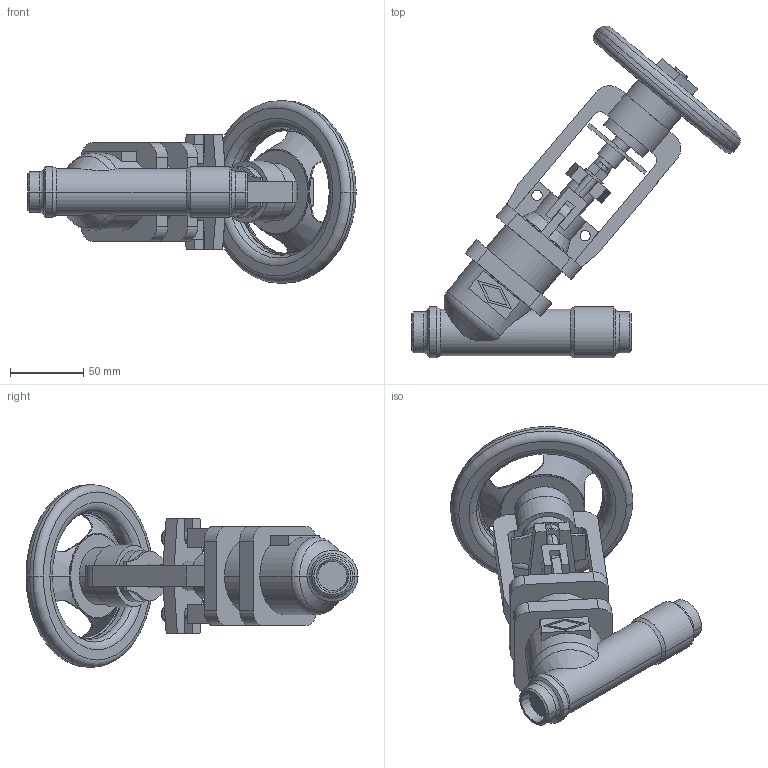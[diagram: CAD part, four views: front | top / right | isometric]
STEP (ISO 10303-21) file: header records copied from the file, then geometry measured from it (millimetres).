
FILE_DESCRIPTION(('OneSpaceDesigner STEP Export'),'2;1');
FILE_NAME('c000004347.stp','2010-05-10T10:56:23',(''),(''),'OneSpace Designer STEP processor for AP214 (Solid Model)','OneSpace Modeling 15.50B 03-Nov-2007 (C) CoCreate Software GmbH','');
FILE_SCHEMA(('AUTOMOTIVE_DESIGN { 1 0 10303 214 1 1 1 1 }'));
Length unit declared in the file: millimetre
Products named in the file (1): 1
Bounding box: 224.51 x 227.02 x 125 mm (x, y, z)
Volume: 585012.4 mm3; surface area: 109852.2 mm2
Topology: 1 solids, 1 shells, 283 faces, 748 edges, 482 vertices
Faces by surface type: plane 136, cylinder 89, torus 30, cone 28
Entity records: 11029 total; most frequent: CARTESIAN_POINT 2141, ORIENTED_EDGE 1480, DIRECTION 1244, EDGE_CURVE 740, VERTEX_POINT 478, AXIS2_PLACEMENT_3D 417, VECTOR 410, LINE 410
